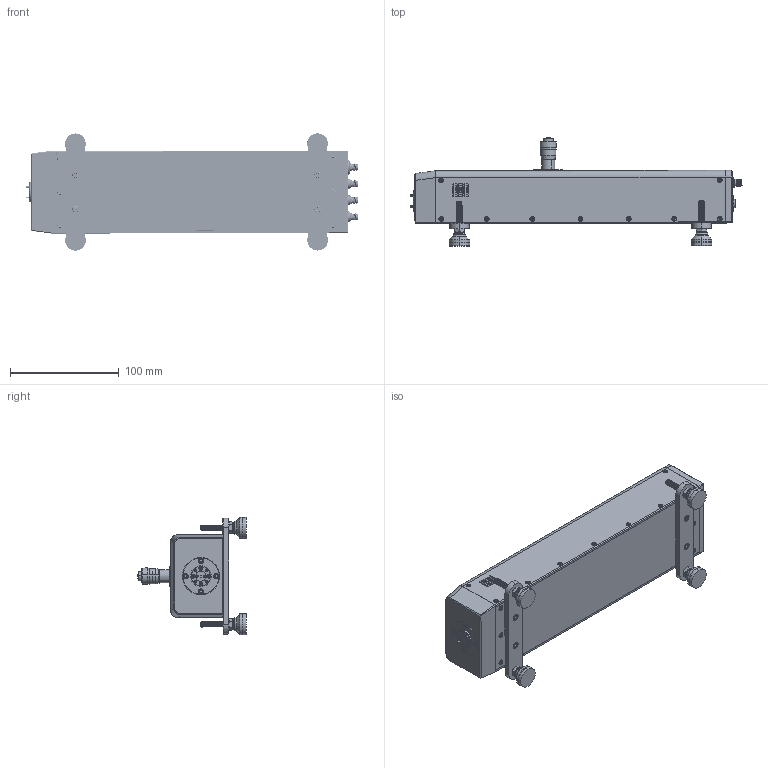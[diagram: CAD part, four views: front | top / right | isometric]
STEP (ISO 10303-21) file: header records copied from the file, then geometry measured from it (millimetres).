
FILE_DESCRIPTION (( 'STEP AP214' ), '1' );
FILE_NAME ('TO-SD-A-M, Defeatured.STEP', '2023-06-28T22:30:19', ( '' ), ( '' ), 'SwSTEP 2.0', 'SolidWorks 2021', '' );
FILE_SCHEMA (( 'AUTOMOTIVE_DESIGN' ));
Length unit declared in the file: inch
Products named in the file (1): TO-SD-A-M, Defeatured
Bounding box: 305.75 x 99.79 x 108.07 mm (x, y, z)
Volume: 1097705.5 mm3; surface area: 169887.8 mm2
Topology: 47 solids, 64 shells, 2573 faces, 6248 edges, 3905 vertices
Faces by surface type: cylinder 994, plane 937, cone 587, bspline 31, sphere 16, torus 8
Entity records: 135025 total; most frequent: CARTESIAN_POINT 44774, ORIENTED_EDGE 12224, DIRECTION 11757, EDGE_CURVE 6112, AXIS2_PLACEMENT_3D 4568, VERTEX_POINT 3881, EDGE_LOOP 2865, VECTOR 2621
